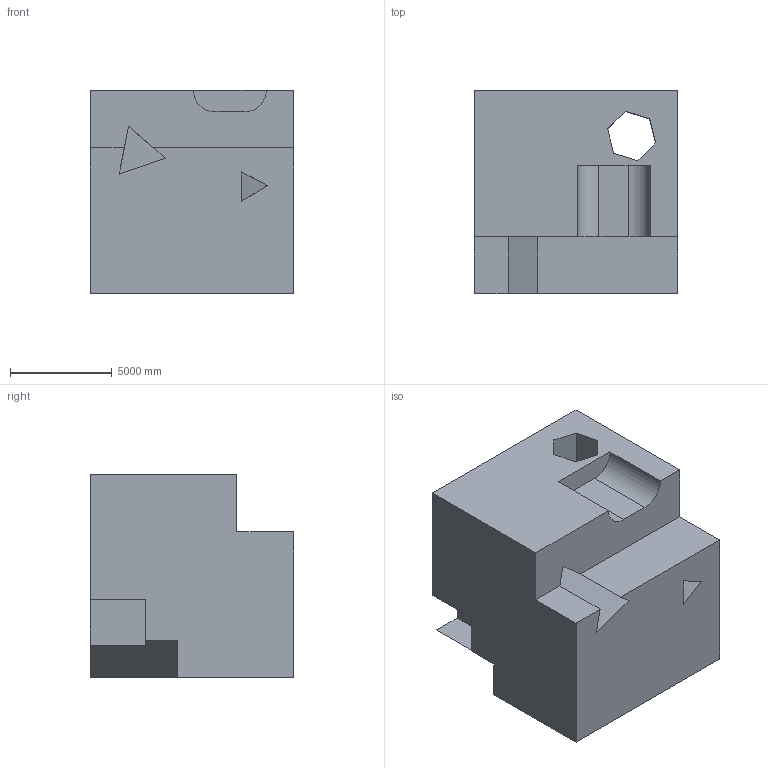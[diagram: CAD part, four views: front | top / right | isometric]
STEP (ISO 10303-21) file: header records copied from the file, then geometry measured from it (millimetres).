
FILE_DESCRIPTION (( 'STEP AP203' ), '1' );
FILE_NAME ('1626.STEP', '2022-08-19T11:09:14', ( 'user' ), ( '' ), 'SwSTEP 2.0', 'SolidWorks 2021', '' );
FILE_SCHEMA (( 'CONFIG_CONTROL_DESIGN' ));
Length unit declared in the file: centimetre
Products named in the file (1): 1626
Bounding box: 10000 x 10000 x 10000 mm (x, y, z)
Volume: 827822786976.2 mm3; surface area: 726048785.4 mm2
Topology: 1 solids, 1 shells, 32 faces, 93 edges, 62 vertices
Faces by surface type: plane 30, cylinder 2
Entity records: 1126 total; most frequent: CARTESIAN_POINT 188, ORIENTED_EDGE 186, DIRECTION 163, EDGE_CURVE 93, VECTOR 89, LINE 89, VERTEX_POINT 62, AXIS2_PLACEMENT_3D 37
